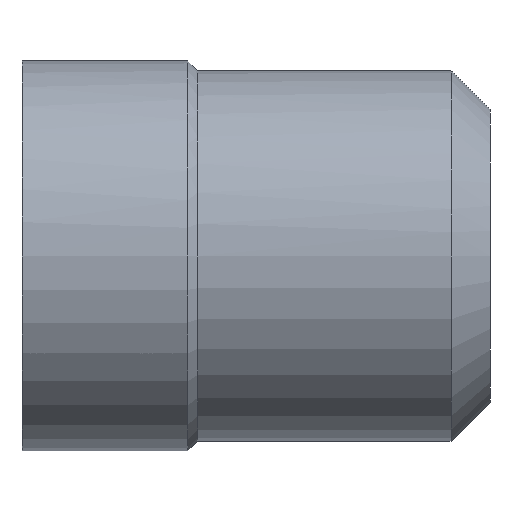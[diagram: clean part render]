
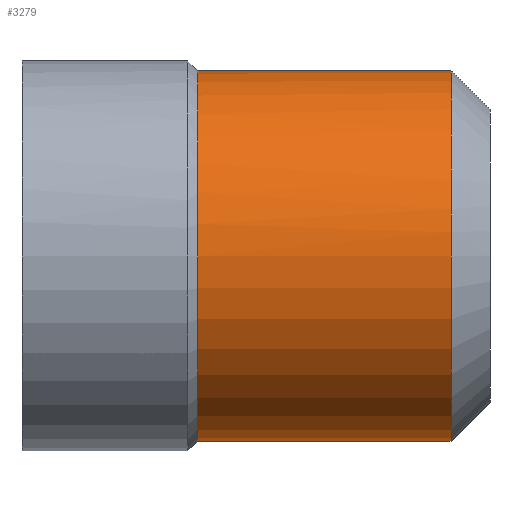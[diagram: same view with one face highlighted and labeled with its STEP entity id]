
A CAD part, front view. The second image highlights one B-rep face of the part: STEP entity #3279.
In plain terms, the highlighted cylindrical face has radius 4.75 mm (diameter 9.5 mm), a partial arc.
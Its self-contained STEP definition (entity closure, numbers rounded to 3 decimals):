
#2764=CARTESIAN_POINT('Vertex',(4.5,0.,4.75)) ;
#2778=CARTESIAN_POINT('Vertex',(4.5,0.,-4.75)) ;
#2800=CARTESIAN_POINT('Axis2P3D Location',(4.5,0.,0.)) ;
#2804=CARTESIAN_POINT('Vertex',(4.5,-4.75,0.)) ;
#2807=CARTESIAN_POINT('Axis2P3D Location',(4.5,0.,0.)) ;
#3213=CARTESIAN_POINT('Line Origine',(4.564,0.,-4.75)) ;
#3217=CARTESIAN_POINT('Vertex',(11.,0.,-4.75)) ;
#3220=CARTESIAN_POINT('Line Origine',(4.564,0.,4.75)) ;
#3224=CARTESIAN_POINT('Vertex',(11.,0.,4.75)) ;
#3251=CARTESIAN_POINT('Axis2P3D Location',(4.564,0.,0.)) ;
#3256=CARTESIAN_POINT('Axis2P3D Location',(11.,0.,0.)) ;
#3260=CARTESIAN_POINT('Vertex',(11.,-4.75,0.)) ;
#3264=CARTESIAN_POINT('Control Point',(11.,0.,4.75)) ;
#3265=CARTESIAN_POINT('Control Point',(11.,-1.492,4.75)) ;
#3266=CARTESIAN_POINT('Control Point',(11.,-2.986,4.166)) ;
#3267=CARTESIAN_POINT('Control Point',(11.,-4.166,2.986)) ;
#3268=CARTESIAN_POINT('Control Point',(11.,-4.75,1.492)) ;
#3269=CARTESIAN_POINT('Control Point',(11.,-4.75,0.)) ;
#2801=DIRECTION('Axis2P3D Direction',(-1.,0.,0.)) ;
#2808=DIRECTION('Axis2P3D Direction',(-1.,0.,0.)) ;
#3214=DIRECTION('Vector Direction',(-1.,0.,0.)) ;
#3221=DIRECTION('Vector Direction',(-1.,0.,0.)) ;
#3252=DIRECTION('Axis2P3D Direction',(-1.,-0.,-0.)) ;
#3253=DIRECTION('Axis2P3D XDirection',(0.,0.,-1.)) ;
#3257=DIRECTION('Axis2P3D Direction',(-1.,-0.,-0.)) ;
#2802=AXIS2_PLACEMENT_3D('Circle Axis2P3D',#2800,#2801,$) ;
#2809=AXIS2_PLACEMENT_3D('Circle Axis2P3D',#2807,#2808,$) ;
#3254=AXIS2_PLACEMENT_3D('Cylinder Axis2P3D',#3251,#3252,#3253) ;
#3258=AXIS2_PLACEMENT_3D('Circle Axis2P3D',#3256,#3257,$) ;
#3272=ORIENTED_EDGE('',*,*,#3226,.T.) ;
#3273=ORIENTED_EDGE('',*,*,#2811,.T.) ;
#3274=ORIENTED_EDGE('',*,*,#2806,.T.) ;
#3275=ORIENTED_EDGE('',*,*,#3219,.T.) ;
#3276=ORIENTED_EDGE('',*,*,#3262,.F.) ;
#3277=ORIENTED_EDGE('',*,*,#3270,.F.) ;
#3215=VECTOR('Line Direction',#3214,1.) ;
#3222=VECTOR('Line Direction',#3221,1.) ;
#3279=ADVANCED_FACE('MPP010',(#3278),#3255,.T.) ;
#3263=B_SPLINE_CURVE_WITH_KNOTS('',5,(#3264,#3265,#3266,#3267,#3268,#3269),.UNSPECIFIED.,.F.,.U.,(6,6),(-3.731,3.731),.UNSPECIFIED.) ;
#2803=CIRCLE('generated circle',#2802,4.75) ;
#2810=CIRCLE('generated circle',#2809,4.75) ;
#3259=CIRCLE('generated circle',#3258,4.75) ;
#3255=CYLINDRICAL_SURFACE('generated cylinder',#3254,4.75) ;
#2806=EDGE_CURVE('',#2805,#2779,#2803,.F.) ;
#2811=EDGE_CURVE('',#2765,#2805,#2810,.F.) ;
#3219=EDGE_CURVE('',#2779,#3218,#3216,.F.) ;
#3226=EDGE_CURVE('',#3225,#2765,#3223,.T.) ;
#3262=EDGE_CURVE('',#3261,#3218,#3259,.F.) ;
#3270=EDGE_CURVE('',#3225,#3261,#3263,.T.) ;
#3271=EDGE_LOOP('',(#3272,#3273,#3274,#3275,#3276,#3277)) ;
#3278=FACE_OUTER_BOUND('',#3271,.T.) ;
#3216=LINE('Line',#3213,#3215) ;
#3223=LINE('Line',#3220,#3222) ;
#2765=VERTEX_POINT('',#2764) ;
#2779=VERTEX_POINT('',#2778) ;
#2805=VERTEX_POINT('',#2804) ;
#3218=VERTEX_POINT('',#3217) ;
#3225=VERTEX_POINT('',#3224) ;
#3261=VERTEX_POINT('',#3260) ;
